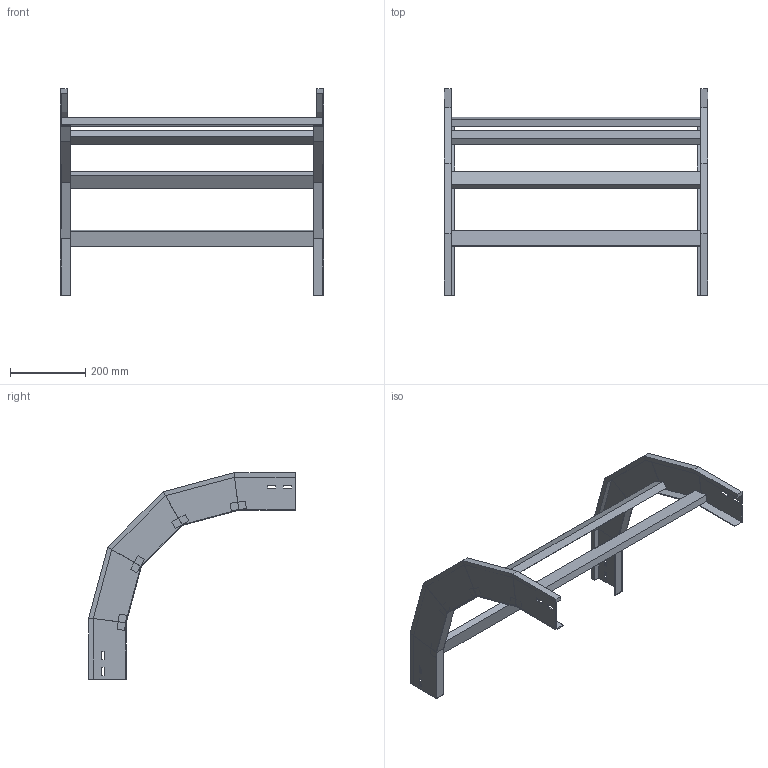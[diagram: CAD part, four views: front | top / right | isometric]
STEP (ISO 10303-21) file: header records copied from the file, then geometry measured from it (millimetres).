
FILE_DESCRIPTION (( 'STEP AP214' ), '1' );
FILE_NAME ('A2_33B3D700.step', '2025-02-21T15:02:06', ( '' ), ( '' ), 'SwSTEP 2.0', 'SolidWorks 2023', '' );
FILE_SCHEMA (( 'AUTOMOTIVE_DESIGN' ));
Length unit declared in the file: millimetre
Products named in the file (3): LONGH.DISCESA_90°_H100_R300; TRAVERSINO_700; A2_33B3D700
Assembly tree (6 placements, depth 2):
  A2_33B3D700
    LONGH.DISCESA_90°_H100_R300  x2
    TRAVERSINO_700  x4
Bounding box: 700 x 549.44 x 549.44 mm (x, y, z)
Volume: 3018660.1 mm3; surface area: 823539.4 mm2
Topology: 6 solids, 6 shells, 140 faces, 320 edges, 192 vertices
Faces by surface type: plane 140
Entity records: 1872 total; most frequent: CARTESIAN_POINT 309, ORIENTED_EDGE 296, DIRECTION 294, LINE 148, EDGE_CURVE 148, VECTOR 148, VERTEX_POINT 88, AXIS2_PLACEMENT_3D 73
